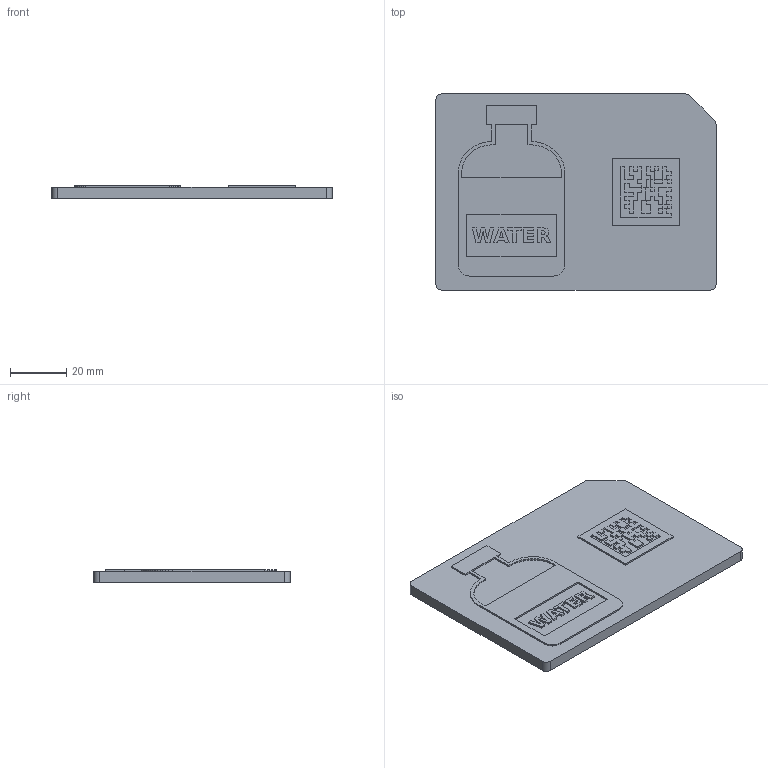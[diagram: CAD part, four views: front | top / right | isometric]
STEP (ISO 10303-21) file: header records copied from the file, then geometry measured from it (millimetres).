
FILE_DESCRIPTION(('Open CASCADE Model'),'2;1');
FILE_NAME('Open CASCADE Shape Model','2026-10-14T18:09:58',('Author'),( 'Open CASCADE'),'Open CASCADE STEP processor 7.9','Open CASCADE 7.9' ,'Unknown');
FILE_SCHEMA(('AUTOMOTIVE_DESIGN { 1 0 10303 214 1 1 1 1 }'));
Length unit declared in the file: millimetre
Products named in the file (3): SN-4811; SN-4811_base_dark; SN-4811_features_red
Assembly tree (2 placements, depth 2):
  SN-4811
    SN-4811_base_dark
    SN-4811_features_red
Bounding box: 100 x 70 x 4.6 mm (x, y, z)
Volume: 28694.4 mm3; surface area: 20162 mm2
Topology: 8 solids, 8 shells, 651 faces, 1842 edges, 1228 vertices
Faces by surface type: plane 646, cylinder 5
Entity records: 44142 total; most frequent: CARTESIAN_POINT 8024, DIRECTION 6238, LINE 4902, VECTOR 4902, ORIENTED_EDGE 3684, PCURVE 3684, DEFINITIONAL_REPRESENTATION 3684, EDGE_CURVE 1842
